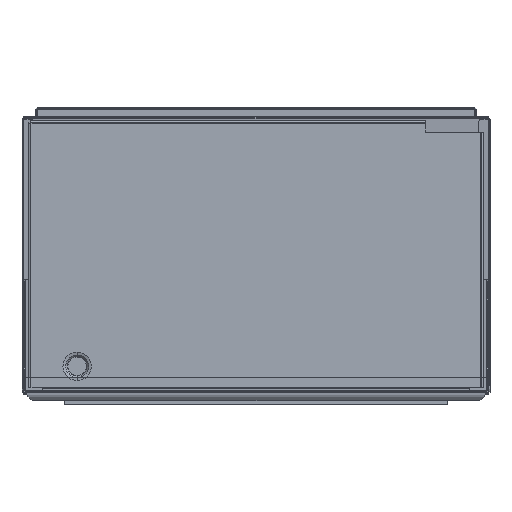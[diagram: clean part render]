
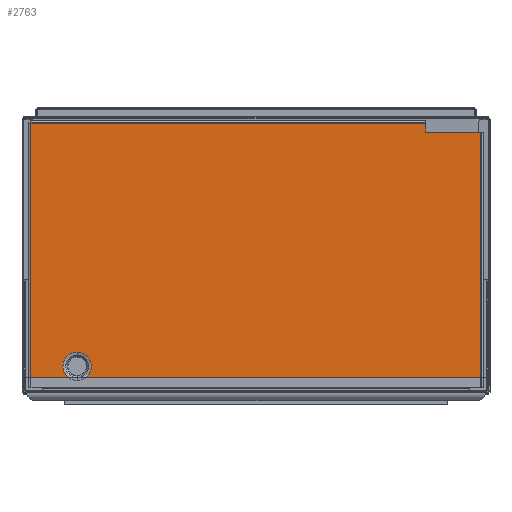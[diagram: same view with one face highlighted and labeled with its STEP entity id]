
A CAD part, front view. The second image highlights one B-rep face of the part: STEP entity #2763.
In plain terms, the highlighted planar face has unit normal (0, -1, 0).
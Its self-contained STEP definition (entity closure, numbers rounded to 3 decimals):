
#745=FACE_BOUND('',#7539,.T.);
#2763=ADVANCED_FACE('',(#4791,#745),#36462,.T.);
#4791=FACE_OUTER_BOUND('',#7538,.T.);
#7538=EDGE_LOOP('',(#19061,#19062,#19063,#19064,#19065,#19066,#19067,#19068));
#7539=EDGE_LOOP('',(#19069,#19070));
#19061=ORIENTED_EDGE('',*,*,#24748,.F.);
#19062=ORIENTED_EDGE('',*,*,#24749,.F.);
#19063=ORIENTED_EDGE('',*,*,#24750,.F.);
#19064=ORIENTED_EDGE('',*,*,#24751,.F.);
#19065=ORIENTED_EDGE('',*,*,#24752,.F.);
#19066=ORIENTED_EDGE('',*,*,#24753,.F.);
#19067=ORIENTED_EDGE('',*,*,#24746,.F.);
#19068=ORIENTED_EDGE('',*,*,#24747,.F.);
#19069=ORIENTED_EDGE('',*,*,#24883,.F.);
#19070=ORIENTED_EDGE('',*,*,#24874,.F.);
#24746=EDGE_CURVE('',#34380,#34381,#30532,.T.);
#24747=EDGE_CURVE('',#34382,#34380,#30533,.T.);
#24748=EDGE_CURVE('',#34383,#34382,#30534,.T.);
#24749=EDGE_CURVE('',#34384,#34383,#30535,.T.);
#24750=EDGE_CURVE('',#34385,#34384,#30536,.T.);
#24751=EDGE_CURVE('',#34386,#34385,#30537,.T.);
#24752=EDGE_CURVE('',#34387,#34386,#30538,.T.);
#24753=EDGE_CURVE('',#34381,#34387,#30539,.T.);
#24874=EDGE_CURVE('',#34455,#34460,#30660,.T.);
#24883=EDGE_CURVE('',#34460,#34455,#30669,.T.);
#30532=B_SPLINE_CURVE_WITH_KNOTS('',3,(#66672,#66673,#66674,#66675),
 .UNSPECIFIED.,.F.,.F.,(4,4),(-7.75,0.),.UNSPECIFIED.);
#30533=B_SPLINE_CURVE_WITH_KNOTS('',3,(#66676,#66677,#66678,#66679),
 .UNSPECIFIED.,.F.,.F.,(4,4),(-339.75,0.),.UNSPECIFIED.);
#30534=B_SPLINE_CURVE_WITH_KNOTS('',3,(#66680,#66681,#66682,#66683),
 .UNSPECIFIED.,.F.,.F.,(4,4),(-227.5,0.),.UNSPECIFIED.);
#30535=B_SPLINE_CURVE_WITH_KNOTS('',3,(#66684,#66685,#66686,#66687),
 .UNSPECIFIED.,.F.,.F.,(4,4),(-9.75,0.),.UNSPECIFIED.);
#30536=B_SPLINE_CURVE_WITH_KNOTS('',3,(#66688,#66689,#66690,#66691),
 .UNSPECIFIED.,.F.,.F.,(4,4),(-368.,0.),.UNSPECIFIED.);
#30537=B_SPLINE_CURVE_WITH_KNOTS('',3,(#66692,#66693,#66694,#66695),
 .UNSPECIFIED.,.F.,.F.,(4,4),(-9.75,0.),.UNSPECIFIED.);
#30538=B_SPLINE_CURVE_WITH_KNOTS('',3,(#66696,#66697,#66698,#66699),
 .UNSPECIFIED.,.F.,.F.,(4,4),(-219.75,0.),.UNSPECIFIED.);
#30539=B_SPLINE_CURVE_WITH_KNOTS('',3,(#66700,#66701,#66702,#66703),
 .UNSPECIFIED.,.F.,.F.,(4,4),(-47.75,0.),.UNSPECIFIED.);
#30660=B_SPLINE_CURVE_WITH_KNOTS('',3,(#67302,#67303,#67304,#67305,#67306,
#67307,#67308,#67309,#67310,#67311,#67312,#67313,#67314,#67315,#67316,#67317,
#67318,#67319),.UNSPECIFIED.,.F.,.F.,(4,2,2,2,2,2,2,2,4),(0.,4.838,
9.677,14.515,19.354,24.192,29.031,
33.869,38.707),.UNSPECIFIED.);
#30669=B_SPLINE_CURVE_WITH_KNOTS('',3,(#67456,#67457,#67458,#67459,#67460,
#67461,#67462,#67463,#67464,#67465,#67466,#67467,#67468,#67469,#67470,#67471,
#67472,#67473),.UNSPECIFIED.,.F.,.F.,(4,2,2,2,2,2,2,2,4),(38.707,
43.546,48.384,53.223,58.061,62.9,
67.738,72.576,77.415),.UNSPECIFIED.);
#34380=VERTEX_POINT('',#66586);
#34381=VERTEX_POINT('',#66587);
#34382=VERTEX_POINT('',#66588);
#34383=VERTEX_POINT('',#66589);
#34384=VERTEX_POINT('',#66590);
#34385=VERTEX_POINT('',#66591);
#34386=VERTEX_POINT('',#66592);
#34387=VERTEX_POINT('',#66593);
#34455=VERTEX_POINT('',#66661);
#34460=VERTEX_POINT('',#66666);
#36462=PLANE('',#38492);
#38492=AXIS2_PLACEMENT_3D('',#65935,#40477,$);
#40477=DIRECTION('',(0.,-1.,0.));
#65935=CARTESIAN_POINT('',(-165.793,-488.631,98.62));
#66586=CARTESIAN_POINT('',(177.832,-488.631,96.345));
#66587=CARTESIAN_POINT('',(177.832,-488.631,88.595));
#66588=CARTESIAN_POINT('',(-161.918,-488.631,96.345));
#66589=CARTESIAN_POINT('',(-161.918,-488.631,-131.155));
#66590=CARTESIAN_POINT('',(-152.168,-488.631,-131.155));
#66591=CARTESIAN_POINT('',(215.832,-488.631,-131.155));
#66592=CARTESIAN_POINT('',(225.582,-488.631,-131.155));
#66593=CARTESIAN_POINT('',(225.582,-488.631,88.595));
#66661=CARTESIAN_POINT('',(-122.168,-488.631,-125.148));
#66666=CARTESIAN_POINT('',(-122.168,-488.631,-100.663));
#66672=CARTESIAN_POINT('',(177.832,-488.631,96.345));
#66673=CARTESIAN_POINT('',(177.832,-488.631,93.761));
#66674=CARTESIAN_POINT('',(177.832,-488.631,91.178));
#66675=CARTESIAN_POINT('',(177.832,-488.631,88.595));
#66676=CARTESIAN_POINT('',(-161.918,-488.631,96.345));
#66677=CARTESIAN_POINT('',(-48.668,-488.631,96.345));
#66678=CARTESIAN_POINT('',(64.582,-488.631,96.345));
#66679=CARTESIAN_POINT('',(177.832,-488.631,96.345));
#66680=CARTESIAN_POINT('',(-161.918,-488.631,-131.155));
#66681=CARTESIAN_POINT('',(-161.918,-488.631,-55.322));
#66682=CARTESIAN_POINT('',(-161.918,-488.631,20.511));
#66683=CARTESIAN_POINT('',(-161.918,-488.631,96.345));
#66684=CARTESIAN_POINT('',(-152.168,-488.631,-131.155));
#66685=CARTESIAN_POINT('',(-155.418,-488.631,-131.155));
#66686=CARTESIAN_POINT('',(-158.668,-488.631,-131.155));
#66687=CARTESIAN_POINT('',(-161.918,-488.631,-131.155));
#66688=CARTESIAN_POINT('',(215.832,-488.631,-131.155));
#66689=CARTESIAN_POINT('',(93.165,-488.631,-131.155));
#66690=CARTESIAN_POINT('',(-29.502,-488.631,-131.155));
#66691=CARTESIAN_POINT('',(-152.168,-488.631,-131.155));
#66692=CARTESIAN_POINT('',(225.582,-488.631,-131.155));
#66693=CARTESIAN_POINT('',(222.332,-488.631,-131.155));
#66694=CARTESIAN_POINT('',(219.082,-488.631,-131.155));
#66695=CARTESIAN_POINT('',(215.832,-488.631,-131.155));
#66696=CARTESIAN_POINT('',(225.582,-488.631,88.595));
#66697=CARTESIAN_POINT('',(225.582,-488.631,15.345));
#66698=CARTESIAN_POINT('',(225.582,-488.631,-57.905));
#66699=CARTESIAN_POINT('',(225.582,-488.631,-131.155));
#66700=CARTESIAN_POINT('',(177.832,-488.631,88.595));
#66701=CARTESIAN_POINT('',(193.748,-488.631,88.595));
#66702=CARTESIAN_POINT('',(209.665,-488.631,88.595));
#66703=CARTESIAN_POINT('',(225.582,-488.631,88.595));
#67302=CARTESIAN_POINT('',(-122.168,-488.631,-125.148));
#67303=CARTESIAN_POINT('',(-120.566,-488.631,-125.148));
#67304=CARTESIAN_POINT('',(-118.964,-488.631,-124.829));
#67305=CARTESIAN_POINT('',(-116.003,-488.631,-123.603));
#67306=CARTESIAN_POINT('',(-114.645,-488.631,-122.695));
#67307=CARTESIAN_POINT('',(-112.378,-488.631,-120.429));
#67308=CARTESIAN_POINT('',(-111.471,-488.631,-119.071));
#67309=CARTESIAN_POINT('',(-110.244,-488.631,-116.11));
#67310=CARTESIAN_POINT('',(-109.926,-488.631,-114.508));
#67311=CARTESIAN_POINT('',(-109.926,-488.631,-111.303));
#67312=CARTESIAN_POINT('',(-110.244,-488.631,-109.701));
#67313=CARTESIAN_POINT('',(-111.471,-488.631,-106.74));
#67314=CARTESIAN_POINT('',(-112.378,-488.631,-105.382));
#67315=CARTESIAN_POINT('',(-114.645,-488.631,-103.115));
#67316=CARTESIAN_POINT('',(-116.003,-488.631,-102.208));
#67317=CARTESIAN_POINT('',(-118.964,-488.631,-100.981));
#67318=CARTESIAN_POINT('',(-120.566,-488.631,-100.663));
#67319=CARTESIAN_POINT('',(-122.168,-488.631,-100.663));
#67456=CARTESIAN_POINT('',(-122.168,-488.631,-100.663));
#67457=CARTESIAN_POINT('',(-123.771,-488.631,-100.663));
#67458=CARTESIAN_POINT('',(-125.373,-488.631,-100.981));
#67459=CARTESIAN_POINT('',(-128.334,-488.631,-102.208));
#67460=CARTESIAN_POINT('',(-129.692,-488.631,-103.115));
#67461=CARTESIAN_POINT('',(-131.958,-488.631,-105.382));
#67462=CARTESIAN_POINT('',(-132.866,-488.631,-106.74));
#67463=CARTESIAN_POINT('',(-134.092,-488.631,-109.701));
#67464=CARTESIAN_POINT('',(-134.411,-488.631,-111.303));
#67465=CARTESIAN_POINT('',(-134.411,-488.631,-114.508));
#67466=CARTESIAN_POINT('',(-134.092,-488.631,-116.11));
#67467=CARTESIAN_POINT('',(-132.866,-488.631,-119.071));
#67468=CARTESIAN_POINT('',(-131.958,-488.631,-120.429));
#67469=CARTESIAN_POINT('',(-129.692,-488.631,-122.695));
#67470=CARTESIAN_POINT('',(-128.334,-488.631,-123.603));
#67471=CARTESIAN_POINT('',(-125.373,-488.631,-124.829));
#67472=CARTESIAN_POINT('',(-123.771,-488.631,-125.148));
#67473=CARTESIAN_POINT('',(-122.168,-488.631,-125.148));
